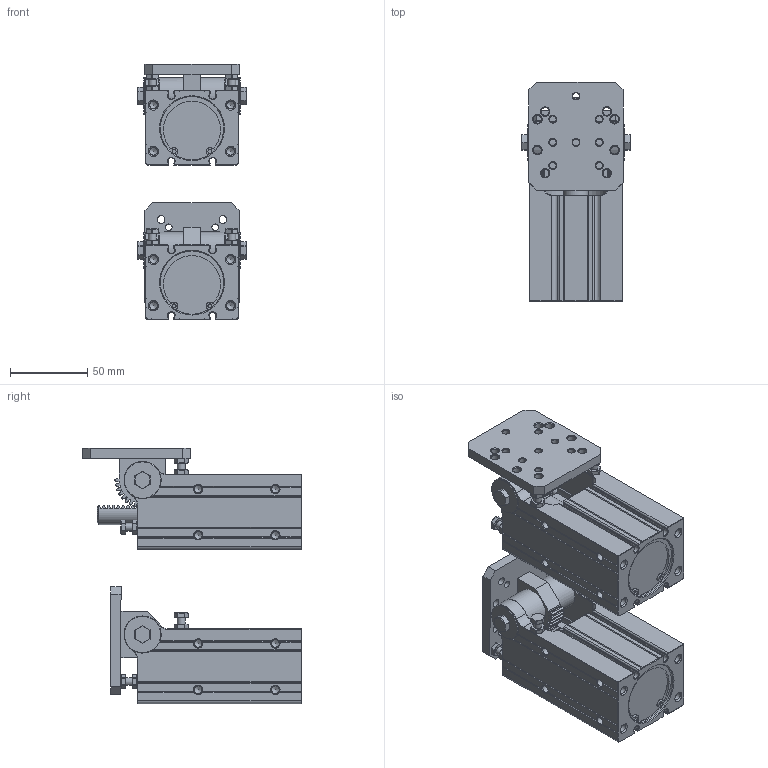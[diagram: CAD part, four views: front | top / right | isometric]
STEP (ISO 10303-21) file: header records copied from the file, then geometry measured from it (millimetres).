
FILE_DESCRIPTION(/* description */ (''),/* implementation_level */ '2;1');
FILE_NAME(/* name */ 'DHR5C-40M30ZG-ZB.stp',/* time_stamp */ '2024-08-26T13:27:55+08:00',/* author */ (''),/* organization */ (''),/* preprocessor_version */ 'ST-DEVELOPER v15',/* originating_system */ 'SIEMENS PLM Software NX 10.0',/* authorisation */ '');
FILE_SCHEMA (('AP203_CONFIGURATION_CONTROLLED_3D_DESIGN_OF_MECHANICAL_PARTS_AND_ASSEMBLIES_MIM_LF { 1 0 10303 403 2 1 2}'));
Length unit declared in the file: millimetre
Products named in the file (1): Admi288432FFsul4
Bounding box: 70.5 x 141.98 x 165.36 mm (x, y, z)
Volume: 630731.8 mm3; surface area: 137361.8 mm2
Topology: 11 solids, 31 shells, 1880 faces, 4704 edges, 2908 vertices
Faces by surface type: plane 1202, cylinder 404, cone 264, bspline 8, torus 2
Full cylindrical faces by diameter (mm): 2.5 x20, 3 x4, 4 x8, 4.3 x16, 4.5 x4, 5 x44, 5.2 x12, 8 x4, 8.7 x4, 10 x10, 14 x4, 14.5 x2, 16 x4, 18 x2, 23 x2, 24 x4, 24.002 x4, 41 x4, 43 x4
Entity records: 53996 total; most frequent: CARTESIAN_POINT 10883, DIRECTION 8914, ORIENTED_EDGE 8444, EDGE_CURVE 4222, AXIS2_PLACEMENT_3D 3007, LINE 2900, VECTOR 2900, VERTEX_POINT 2784
